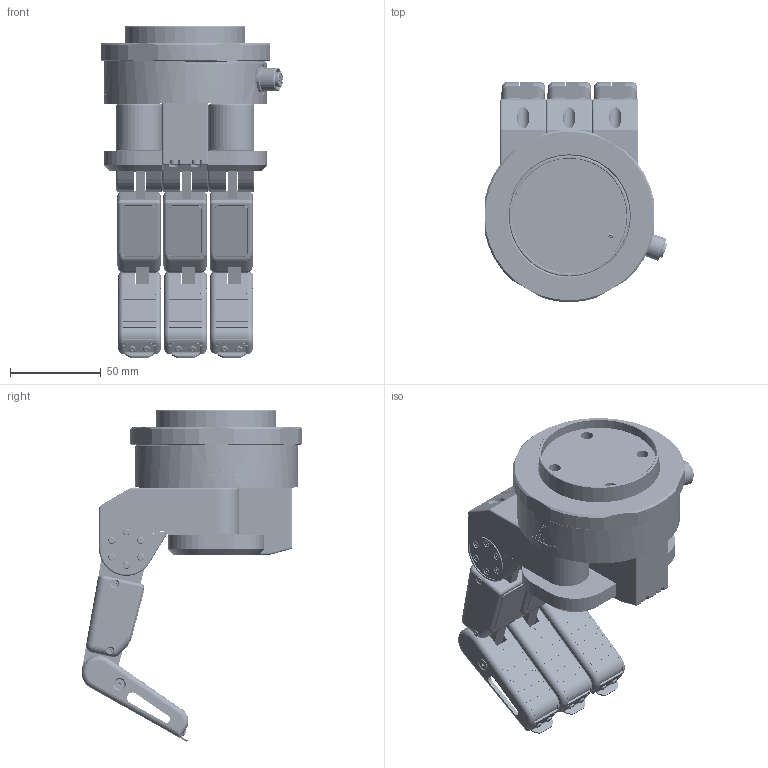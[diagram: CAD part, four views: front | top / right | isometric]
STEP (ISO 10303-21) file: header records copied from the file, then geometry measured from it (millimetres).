
FILE_DESCRIPTION (( 'STEP AP214' ), '1' );
FILE_NAME ('JQ3-5.STEP', '2020-08-26T01:34:24', ( '漆瑕撮扲' ), ( 'isogho.com' ), 'SwSTEP 2.0', 'SolidWorks 2016', '' );
FILE_SCHEMA (( 'AUTOMOTIVE_DESIGN' ));
Length unit declared in the file: millimetre
Products named in the file (46): 1390A10028; 1390A10011; 13FingerAsm101; 1390A10010; 13M2晦す芛; 1390A80001; 1390A10040; 13FingerAsm104; 1390A50004; hexagon socket countersunk head screws gb_GB_FASTENER_SCREWS_HSCHS M3X8-N; cross recessed countersunk head screws gb1_GB_CROSS_SCREWS_TYPE4 M2.5X4-2.5  H type-N; 1390A10039; 13忒硌蝶菜; 13FingerAsm00a; 13HandPalmAsm00; 1390A10030; 13M2坋趼羞蹟隊; 1390A50009; 1390A20010; 1390A10031; 1390A20023; 1390A10006; hexagon socket head cap screws gb_GB_FASTENER_SCREWS_HSHCS M2X5-C; 1390A10016; 1390A10007; 13FingerAsm20; 1390A10015; 13FingerAsm103; 1390A10013; cross recessed countersunk head screws gb1_GB_CROSS_SCREWS_TYPE4 M2X4-2.8  H type-N; 1390A10012; JQ3-5; 1390A10005; hexagon socket head cap screws gb_GB_FASTENER_SCREWS_HSHCS M2.5X5-C; 1390A10004; 1390A10014; 1390A20008; 13笢硌菜え; 1390A20007; 13AL-FHM12KUA4_5-m_M12_S3550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
Assembly tree (82 placements, depth 5):
  JQ3-5
    13HandPalmAsm00
      1390A10015
      1390A10016
      1390A20023
      1390A50009
    13FingerAsm00b
      1390A80001
        13FingerAsm101
          1390A10039
          1390A50004
          1390A10040
          13M2晦す芛  x6
        13FingerAsm102
          1390A10028
          1390A10029
          13M2晦す芛  x6
        1390A10003
        13FingerAsm103
          1390A20007
          1390A20008
          1390A10004
          1390A10005
          cross recessed countersunk head screws gb1_GB_CROSS_SCREWS_TYPE4 M2X4-2.8  H type-N  x4
        13FingerAsm104
          1390A10007
          1390A10006
          1390A20010
          1390A10030
          13忒硌蝶菜
          hexagon socket countersunk head screws gb_GB_FASTENER_SCREWS_HSCHS M3X8-N  x3
          cross recessed countersunk head screws gb1_GB_CROSS_SCREWS_TYPE4 M2X4-2.8  H type-N  x2
        cross recessed countersunk head screws gb1_GB_CROSS_SCREWS_TYPE4 M2X4-2.8  H type-N  x4
      13FingerAsm20b
        1390A10010
        1390A10011
      1390A10009
    13AL-FHM12KUA4_5-m_M12_S3550
    13M2晦す芛  x2
    13笢硌菜え
    1390A10014
    hexagon socket head cap screws gb_GB_FASTENER_SCREWS_HSHCS M2.5X5-C  x4
    13FingerAsm00a  x2
      1390A80001
        13FingerAsm101
          1390A10039
          1390A50004
          1390A10040
          13M2晦す芛  x6
        13FingerAsm102
          1390A10028
          1390A10029
          13M2晦す芛  x6
        1390A10003
        13FingerAsm103
          1390A20007
          1390A20008
          1390A10004
          1390A10005
          cross recessed countersunk head screws gb1_GB_CROSS_SCREWS_TYPE4 M2X4-2.8  H type-N  x4
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Bounding box: 100.48 x 121.7 x 183.06 mm (x, y, z)
Volume: 453951.2 mm3; surface area: 228944.3 mm2
Topology: 163 solids, 163 shells, 4867 faces, 11864 edges, 7544 vertices
Faces by surface type: plane 2427, cylinder 1479, cone 358, torus 292, bspline 275, sphere 36
Entity records: 58827 total; most frequent: CARTESIAN_POINT 17702, ORIENTED_EDGE 8138, DIRECTION 7713, EDGE_CURVE 4069, AXIS2_PLACEMENT_3D 2855, VERTEX_POINT 2612, VECTOR 2003, LINE 2003
